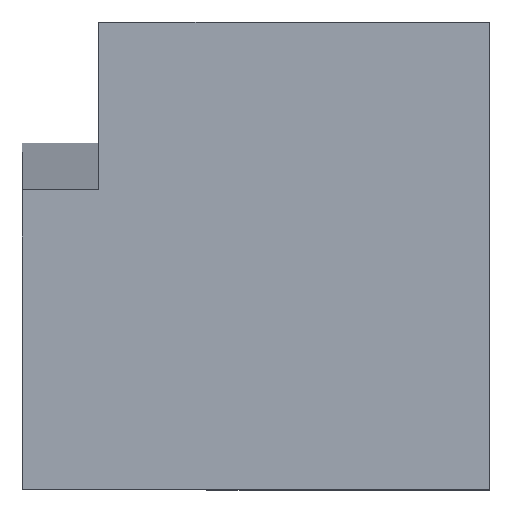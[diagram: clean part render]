
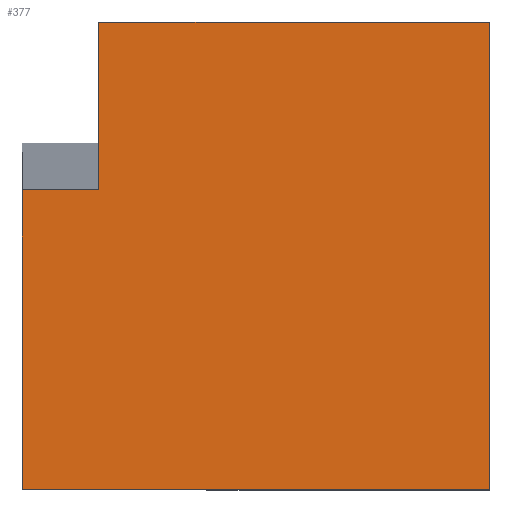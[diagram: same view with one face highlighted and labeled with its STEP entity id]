
A CAD part, top view. The second image highlights one B-rep face of the part: STEP entity #377.
In plain terms, the highlighted planar face has unit normal (0, 0, 1).
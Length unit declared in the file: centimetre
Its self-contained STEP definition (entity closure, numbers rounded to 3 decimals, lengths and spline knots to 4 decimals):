
#2 = PLANE ( 'NONE',  #398 ) ;
#20 = CARTESIAN_POINT ( 'NONE',  ( 1000., 1000., 1000. ) ) ;
#45 = VERTEX_POINT ( 'NONE', #720 ) ;
#65 = CARTESIAN_POINT ( 'NONE',  ( 163.5293, 640.4712, 1000. ) ) ;
#81 = DIRECTION ( 'NONE',  ( 0., 1., 0. ) ) ;
#131 = CARTESIAN_POINT ( 'NONE',  ( 163.5293, 640.4712, 1000. ) ) ;
#147 = EDGE_CURVE ( 'NONE', #393, #397, #639, .T. ) ;
#159 = VECTOR ( 'NONE', #621, 100. ) ;
#170 = EDGE_CURVE ( 'NONE', #383, #879, #493, .T. ) ;
#201 = DIRECTION ( 'NONE',  ( 0., 0., 1. ) ) ;
#227 = CARTESIAN_POINT ( 'NONE',  ( 163.5293, 1000., 1000. ) ) ;
#253 = ORIENTED_EDGE ( 'NONE', *, *, #347, .T. ) ;
#263 = LINE ( 'NONE', #65, #479 ) ;
#269 = DIRECTION ( 'NONE',  ( -1., 0., 0. ) ) ;
#273 = LINE ( 'NONE', #327, #714 ) ;
#274 = EDGE_CURVE ( 'NONE', #397, #358, #352, .T. ) ;
#303 = VECTOR ( 'NONE', #692, 100. ) ;
#307 = CARTESIAN_POINT ( 'NONE',  ( 0., 0., 1000. ) ) ;
#327 = CARTESIAN_POINT ( 'NONE',  ( 0., 1000., 1000. ) ) ;
#329 = EDGE_CURVE ( 'NONE', #358, #879, #273, .T. ) ;
#347 = EDGE_CURVE ( 'NONE', #383, #45, #263, .T. ) ;
#352 = LINE ( 'NONE', #20, #726 ) ;
#358 = VERTEX_POINT ( 'NONE', #535 ) ;
#377 = ADVANCED_FACE ( 'NONE', ( #666 ), #2, .T. ) ;
#383 = VERTEX_POINT ( 'NONE', #131 ) ;
#393 = VERTEX_POINT ( 'NONE', #608 ) ;
#397 = VERTEX_POINT ( 'NONE', #542 ) ;
#398 = AXIS2_PLACEMENT_3D ( 'NONE', #807, #201, #466 ) ;
#431 = ORIENTED_EDGE ( 'NONE', *, *, #274, .T. ) ;
#465 = ORIENTED_EDGE ( 'NONE', *, *, #147, .T. ) ;
#466 = DIRECTION ( 'NONE',  ( 1., 0., 0. ) ) ;
#467 = EDGE_CURVE ( 'NONE', #45, #393, #853, .T. ) ;
#479 = VECTOR ( 'NONE', #269, 100. ) ;
#493 = LINE ( 'NONE', #835, #303 ) ;
#535 = CARTESIAN_POINT ( 'NONE',  ( 1000., 1000., 1000. ) ) ;
#542 = CARTESIAN_POINT ( 'NONE',  ( 1000., 0., 1000. ) ) ;
#545 = ORIENTED_EDGE ( 'NONE', *, *, #170, .F. ) ;
#554 = VECTOR ( 'NONE', #792, 100. ) ;
#576 = ORIENTED_EDGE ( 'NONE', *, *, #467, .T. ) ;
#608 = CARTESIAN_POINT ( 'NONE',  ( 0., 0., 1000. ) ) ;
#621 = DIRECTION ( 'NONE',  ( 1., 0., 0. ) ) ;
#639 = LINE ( 'NONE', #307, #159 ) ;
#649 = CARTESIAN_POINT ( 'NONE',  ( 0., 1000., 1000. ) ) ;
#666 = FACE_OUTER_BOUND ( 'NONE', #852, .T. ) ;
#692 = DIRECTION ( 'NONE',  ( 0., 1., 0. ) ) ;
#714 = VECTOR ( 'NONE', #737, 100. ) ;
#720 = CARTESIAN_POINT ( 'NONE',  ( 0., 640.4712, 1000. ) ) ;
#726 = VECTOR ( 'NONE', #81, 100. ) ;
#737 = DIRECTION ( 'NONE',  ( -1., 0., 0. ) ) ;
#752 = ORIENTED_EDGE ( 'NONE', *, *, #329, .T. ) ;
#792 = DIRECTION ( 'NONE',  ( 0., -1., 0. ) ) ;
#807 = CARTESIAN_POINT ( 'NONE',  ( 0., 0., 1000. ) ) ;
#835 = CARTESIAN_POINT ( 'NONE',  ( 163.5293, 1000., 1000. ) ) ;
#852 = EDGE_LOOP ( 'NONE', ( #253, #576, #465, #431, #752, #545 ) ) ;
#853 = LINE ( 'NONE', #649, #554 ) ;
#879 = VERTEX_POINT ( 'NONE', #227 ) ;
